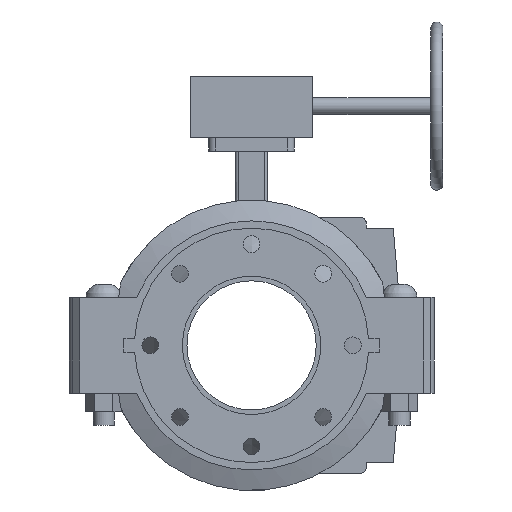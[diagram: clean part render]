
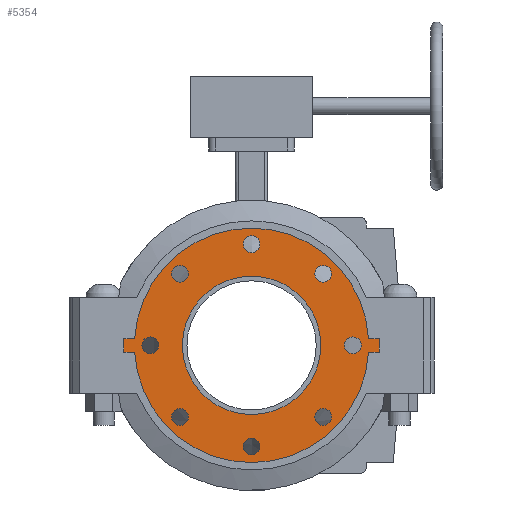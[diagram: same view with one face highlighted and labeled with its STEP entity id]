
A CAD part, front view. The second image highlights one B-rep face of the part: STEP entity #5354.
In plain terms, the highlighted planar face has unit normal (0, -1, 0) as drawn and (0, 0, -1) by its records, which use the part's own axes.
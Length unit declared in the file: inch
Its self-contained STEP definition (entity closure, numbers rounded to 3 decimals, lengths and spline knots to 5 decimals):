
#155=FACE_BOUND('',#722,.T.);
#156=FACE_BOUND('',#723,.T.);
#157=FACE_BOUND('',#724,.T.);
#158=FACE_BOUND('',#725,.T.);
#159=FACE_BOUND('',#726,.T.);
#160=FACE_BOUND('',#727,.T.);
#161=FACE_BOUND('',#728,.T.);
#162=FACE_BOUND('',#729,.T.);
#163=FACE_BOUND('',#730,.T.);
#234=PLANE('',#5862);
#418=FACE_OUTER_BOUND('',#721,.T.);
#721=EDGE_LOOP('',(#3505,#3506,#3507,#3508,#3509,#3510,#3511,#3512));
#722=EDGE_LOOP('',(#3513));
#723=EDGE_LOOP('',(#3514));
#724=EDGE_LOOP('',(#3515));
#725=EDGE_LOOP('',(#3516));
#726=EDGE_LOOP('',(#3517));
#727=EDGE_LOOP('',(#3518));
#728=EDGE_LOOP('',(#3519));
#729=EDGE_LOOP('',(#3520));
#730=EDGE_LOOP('',(#3521));
#1082=LINE('',#8207,#1455);
#1085=LINE('',#8213,#1458);
#1088=LINE('',#8218,#1461);
#1090=LINE('',#8223,#1463);
#1094=LINE('',#8230,#1467);
#1096=LINE('',#8233,#1469);
#1455=VECTOR('',#6551,0.3937);
#1458=VECTOR('',#6556,0.3937);
#1461=VECTOR('',#6561,0.3937);
#1463=VECTOR('',#6565,0.3937);
#1467=VECTOR('',#6571,0.3937);
#1469=VECTOR('',#6575,0.3937);
#1816=CIRCLE('',#5824,0.395);
#1818=CIRCLE('',#5827,0.395);
#1820=CIRCLE('',#5830,0.395);
#1822=CIRCLE('',#5833,0.395);
#1824=CIRCLE('',#5836,0.395);
#1826=CIRCLE('',#5839,0.395);
#1828=CIRCLE('',#5842,0.395);
#1830=CIRCLE('',#5845,0.395);
#1831=CIRCLE('',#5847,3.25);
#1833=CIRCLE('',#5850,5.5);
#1836=CIRCLE('',#5854,5.5);
#2146=VERTEX_POINT('',#8136);
#2148=VERTEX_POINT('',#8142);
#2150=VERTEX_POINT('',#8148);
#2152=VERTEX_POINT('',#8154);
#2154=VERTEX_POINT('',#8160);
#2156=VERTEX_POINT('',#8166);
#2158=VERTEX_POINT('',#8172);
#2160=VERTEX_POINT('',#8178);
#2161=VERTEX_POINT('',#8182);
#2163=VERTEX_POINT('',#8188);
#2165=VERTEX_POINT('',#8191);
#2167=VERTEX_POINT('',#8197);
#2170=VERTEX_POINT('',#8202);
#2171=VERTEX_POINT('',#8206);
#2173=VERTEX_POINT('',#8212);
#2175=VERTEX_POINT('',#8221);
#2176=VERTEX_POINT('',#8222);
#2666=EDGE_CURVE('',#2146,#2146,#1816,.T.);
#2669=EDGE_CURVE('',#2148,#2148,#1818,.T.);
#2672=EDGE_CURVE('',#2150,#2150,#1820,.T.);
#2675=EDGE_CURVE('',#2152,#2152,#1822,.T.);
#2678=EDGE_CURVE('',#2154,#2154,#1824,.T.);
#2681=EDGE_CURVE('',#2156,#2156,#1826,.T.);
#2684=EDGE_CURVE('',#2158,#2158,#1828,.T.);
#2687=EDGE_CURVE('',#2160,#2160,#1830,.T.);
#2688=EDGE_CURVE('',#2161,#2161,#1831,.T.);
#2692=EDGE_CURVE('',#2163,#2165,#1833,.T.);
#2698=EDGE_CURVE('',#2170,#2167,#1836,.T.);
#2699=EDGE_CURVE('',#2165,#2171,#1082,.T.);
#2702=EDGE_CURVE('',#2173,#2170,#1085,.T.);
#2705=EDGE_CURVE('',#2171,#2173,#1088,.T.);
#2707=EDGE_CURVE('',#2175,#2176,#1090,.T.);
#2711=EDGE_CURVE('',#2167,#2175,#1094,.T.);
#2713=EDGE_CURVE('',#2176,#2163,#1096,.T.);
#3505=ORIENTED_EDGE('',*,*,#2713,.F.);
#3506=ORIENTED_EDGE('',*,*,#2707,.F.);
#3507=ORIENTED_EDGE('',*,*,#2711,.F.);
#3508=ORIENTED_EDGE('',*,*,#2698,.F.);
#3509=ORIENTED_EDGE('',*,*,#2702,.F.);
#3510=ORIENTED_EDGE('',*,*,#2705,.F.);
#3511=ORIENTED_EDGE('',*,*,#2699,.F.);
#3512=ORIENTED_EDGE('',*,*,#2692,.F.);
#3513=ORIENTED_EDGE('',*,*,#2666,.T.);
#3514=ORIENTED_EDGE('',*,*,#2669,.T.);
#3515=ORIENTED_EDGE('',*,*,#2672,.T.);
#3516=ORIENTED_EDGE('',*,*,#2675,.T.);
#3517=ORIENTED_EDGE('',*,*,#2678,.T.);
#3518=ORIENTED_EDGE('',*,*,#2681,.T.);
#3519=ORIENTED_EDGE('',*,*,#2684,.T.);
#3520=ORIENTED_EDGE('',*,*,#2687,.T.);
#3521=ORIENTED_EDGE('',*,*,#2688,.T.);
#5354=ADVANCED_FACE('',(#418,#155,#156,#157,#158,#159,#160,#161,#162,#163),
#234,.F.);
#5824=AXIS2_PLACEMENT_3D('',#8138,#6475,#6476);
#5827=AXIS2_PLACEMENT_3D('',#8144,#6482,#6483);
#5830=AXIS2_PLACEMENT_3D('',#8150,#6489,#6490);
#5833=AXIS2_PLACEMENT_3D('',#8156,#6496,#6497);
#5836=AXIS2_PLACEMENT_3D('',#8162,#6503,#6504);
#5839=AXIS2_PLACEMENT_3D('',#8168,#6510,#6511);
#5842=AXIS2_PLACEMENT_3D('',#8174,#6517,#6518);
#5845=AXIS2_PLACEMENT_3D('',#8180,#6524,#6525);
#5847=AXIS2_PLACEMENT_3D('',#8183,#6528,#6529);
#5850=AXIS2_PLACEMENT_3D('',#8192,#6536,#6537);
#5854=AXIS2_PLACEMENT_3D('',#8204,#6547,#6548);
#5862=AXIS2_PLACEMENT_3D('',#8236,#6579,#6580);
#6475=DIRECTION('center_axis',(0.,0.,1.));
#6476=DIRECTION('ref_axis',(-0.707,-0.707,0.));
#6482=DIRECTION('center_axis',(0.,0.,1.));
#6483=DIRECTION('ref_axis',(-1.,0.,0.));
#6489=DIRECTION('center_axis',(0.,0.,1.));
#6490=DIRECTION('ref_axis',(-0.707,0.707,0.));
#6496=DIRECTION('center_axis',(0.,0.,1.));
#6497=DIRECTION('ref_axis',(0.,1.,0.));
#6503=DIRECTION('center_axis',(0.,0.,1.));
#6504=DIRECTION('ref_axis',(0.707,0.707,0.));
#6510=DIRECTION('center_axis',(0.,0.,1.));
#6511=DIRECTION('ref_axis',(1.,0.,0.));
#6517=DIRECTION('center_axis',(0.,0.,1.));
#6518=DIRECTION('ref_axis',(0.707,-0.707,0.));
#6524=DIRECTION('center_axis',(0.,0.,1.));
#6525=DIRECTION('ref_axis',(0.,-1.,0.));
#6528=DIRECTION('center_axis',(0.,0.,1.));
#6529=DIRECTION('ref_axis',(0.,-1.,0.));
#6536=DIRECTION('center_axis',(0.,0.,1.));
#6537=DIRECTION('ref_axis',(0.,1.,0.));
#6547=DIRECTION('center_axis',(0.,0.,1.));
#6548=DIRECTION('ref_axis',(0.,1.,0.));
#6551=DIRECTION('',(0.,-1.,0.));
#6556=DIRECTION('',(0.,1.,0.));
#6561=DIRECTION('',(1.,0.,0.));
#6565=DIRECTION('',(-1.,0.,0.));
#6571=DIRECTION('',(0.,1.,0.));
#6575=DIRECTION('',(0.,-1.,0.));
#6579=DIRECTION('center_axis',(0.,0.,1.));
#6580=DIRECTION('ref_axis',(0.,1.,0.));
#8136=CARTESIAN_POINT('',(-3.07945,3.63806,0.));
#8138=CARTESIAN_POINT('Origin',(-3.35876,3.35876,0.));
#8142=CARTESIAN_POINT('',(0.395,4.75,0.));
#8144=CARTESIAN_POINT('Origin',(0.,4.75,0.));
#8148=CARTESIAN_POINT('',(3.63806,3.07945,0.));
#8150=CARTESIAN_POINT('Origin',(3.35876,3.35876,0.));
#8154=CARTESIAN_POINT('',(4.75,-0.395,0.));
#8156=CARTESIAN_POINT('Origin',(4.75,0.,0.));
#8160=CARTESIAN_POINT('',(3.07945,-3.63806,0.));
#8162=CARTESIAN_POINT('Origin',(3.35876,-3.35876,0.));
#8166=CARTESIAN_POINT('',(-0.395,-4.75,0.));
#8168=CARTESIAN_POINT('Origin',(0.,-4.75,0.));
#8172=CARTESIAN_POINT('',(-3.63806,-3.07945,0.));
#8174=CARTESIAN_POINT('Origin',(-3.35876,-3.35876,0.));
#8178=CARTESIAN_POINT('',(-4.75,0.395,0.));
#8180=CARTESIAN_POINT('Origin',(-4.75,0.,0.));
#8182=CARTESIAN_POINT('',(0.,3.25,0.));
#8183=CARTESIAN_POINT('Origin',(0.,0.,0.));
#8188=CARTESIAN_POINT('',(-0.32,5.49068,0.));
#8191=CARTESIAN_POINT('',(-0.32,-5.49068,0.));
#8192=CARTESIAN_POINT('Origin',(0.,0.,0.));
#8197=CARTESIAN_POINT('',(0.32,5.49068,0.));
#8202=CARTESIAN_POINT('',(0.32,-5.49068,0.));
#8204=CARTESIAN_POINT('Origin',(0.,0.,0.));
#8206=CARTESIAN_POINT('',(-0.32,-6.,0.));
#8207=CARTESIAN_POINT('',(-0.32,-5.49068,0.));
#8212=CARTESIAN_POINT('',(0.32,-6.,0.));
#8213=CARTESIAN_POINT('',(0.32,-6.,0.));
#8218=CARTESIAN_POINT('',(-0.32,-6.,0.));
#8221=CARTESIAN_POINT('',(0.32,6.,0.));
#8222=CARTESIAN_POINT('',(-0.32,6.,0.));
#8223=CARTESIAN_POINT('',(0.32,6.,0.));
#8230=CARTESIAN_POINT('',(0.32,5.49068,0.));
#8233=CARTESIAN_POINT('',(-0.32,6.,0.));
#8236=CARTESIAN_POINT('Origin',(0.,5.76575,0.));
